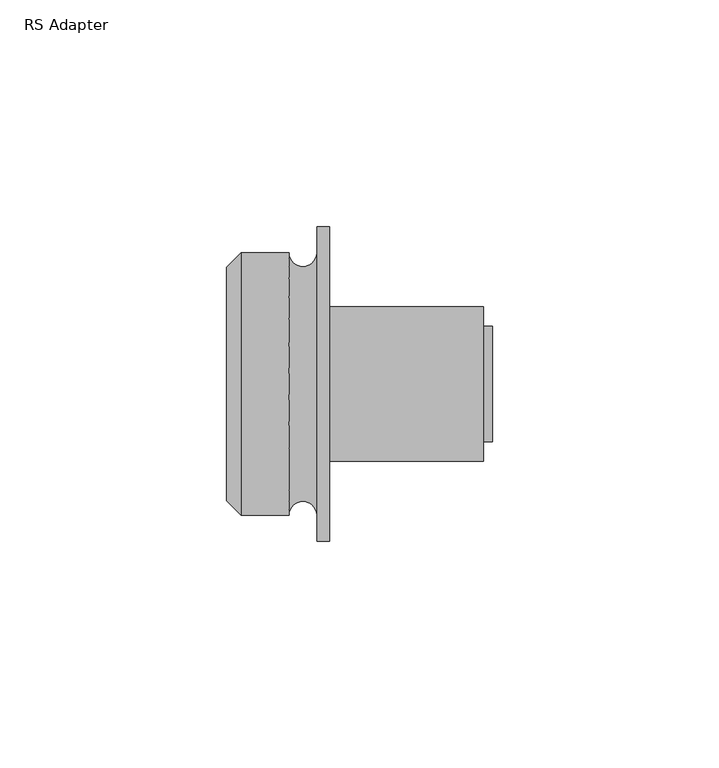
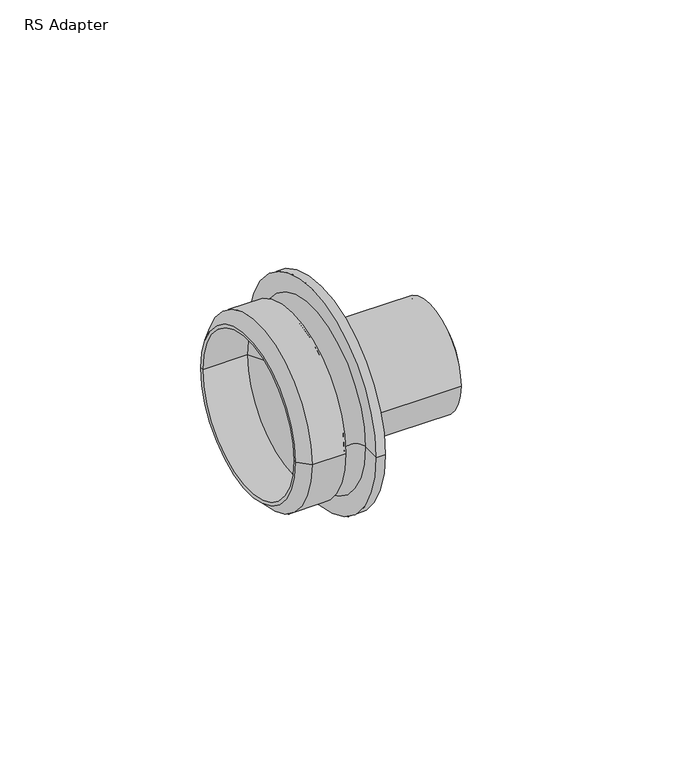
"""IFC4 building model written with IfcOpenShell, lengths in millimetres: pipe fitting geometry, RS Adapter : Superpipe RS Press Adapter."""

from ifc_helpers import new_model, si_unit, point, frame, origin, place, context, project, spatial, polyline, circle_curve, ellipse_curve, trimmed, source, transform, mapped, element, save
from ifc_brep_helpers import plane_surface, cylinder_surface, revolved_surface, advanced_brep


def rs_adapter_ed761ce0(model_context):
    return source(origin(), model_context, "Body", "AdvancedBrep", [
        advanced_brep(
        [(56.8, -17.0, 0.0), (56.8, 17.0, 0.0), (56.8, 16.0, 0.0), (56.8, -16.0, 0.0), (22.8, 16.0, 0.0), (22.8, -16.0, 0.0), (22.8, 17.0, 0.0), (22.8, -17.0, 0.0)],
        [
            (0, 1, circle_curve(frame((56.8, 0.0, 0.0), z_axis=(1.0, 0.0, 0.0), x_axis=(0.0, 1.0, 0.0)), 17.0)),
            (1, 2),
            (2, 3, circle_curve(frame((56.8, 0.0, 0.0), z_axis=(-1.0, 0.0, 0.0), x_axis=(0.0, 1.0, 0.0)), 16.0)),
            (3, 0),
            (2, 4),
            (4, 5, circle_curve(frame((22.8, 0.0, 0.0), z_axis=(-1.0, 0.0, 0.0), x_axis=(0.0, 1.0, 0.0)), 16.0)),
            (5, 3),
            (4, 6),
            (6, 7, circle_curve(frame((22.8, 0.0, 0.0), z_axis=(-1.0, 0.0, 0.0), x_axis=(0.0, 1.0, 0.0)), 17.0)),
            (7, 5),
            (6, 1),
            (0, 7),
            (6, 7, circle_curve(frame((22.8, 0.0, 0.0), z_axis=(1.0, 0.0, 0.0), x_axis=(0.0, 1.0, 0.0)), 17.0)),
            (0, 1, circle_curve(frame((56.8, 0.0, 0.0), z_axis=(-1.0, 0.0, 0.0), x_axis=(0.0, 1.0, 0.0)), 17.0)),
            (4, 5, circle_curve(frame((22.8, 0.0, 0.0), z_axis=(1.0, 0.0, 0.0), x_axis=(0.0, 1.0, 0.0)), 16.0)),
            (2, 3, circle_curve(frame((56.8, 0.0, 0.0), z_axis=(1.0, 0.0, 0.0), x_axis=(0.0, 1.0, 0.0)), 16.0)),
        ],
        [
            plane_surface(frame((56.8, 0.0, 0.0), z_axis=(1.0, 0.0, 0.0), x_axis=(0.0, 1.0, 0.0))),
            revolved_surface(polyline([(22.799999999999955, 16.0, 0.0), (56.799999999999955, 16.0, 0.0)]), (1994.0, 0.0, 0.0), (-1.0, 0.0, 0.0)),
            plane_surface(frame((22.8, 0.0, 0.0), z_axis=(-1.0, 0.0, 0.0), x_axis=(0.0, 1.0, 0.0))),
            cylinder_surface(frame((1994.0, 0.0, 0.0), z_axis=(-1.0, 0.0, 0.0), x_axis=(0.0, 1.0, 0.0)), 17.0),
        ],
        [
            (0, [[1, 2, 3, 4]]),
            (1, [[-3, 5, 6, 7]]),
            (2, [[-6, 8, 9, 10]]),
            (3, [[-9, 11, -1, 12]]),
            (3, [[13, -12, 14, -11]]),
            (2, [[15, -10, -13, -8]]),
            (1, [[16, -7, -15, -5]]),
            (0, [[-14, -4, -16, -2]]),
        ],
    ),
        advanced_brep(
        [(58.8, -12.75, 0.0), (58.8, 12.75, 0.0), (58.8, 9.75, 0.0), (58.8, -9.75, 0.0), (22.8, 9.75, 0.0), (22.8, -9.75, 0.0), (22.8, 12.75, 0.0), (22.8, -12.75, 0.0)],
        [
            (0, 1, circle_curve(frame((58.8, 0.0, 0.0), z_axis=(1.0, 0.0, 0.0), x_axis=(0.0, 1.0, 0.0)), 12.75)),
            (1, 2),
            (2, 3, circle_curve(frame((58.8, 0.0, 0.0), z_axis=(-1.0, 0.0, 0.0), x_axis=(0.0, 1.0, 0.0)), 9.75)),
            (3, 0),
            (2, 4),
            (4, 5, circle_curve(frame((22.8, 0.0, 0.0), z_axis=(-1.0, 0.0, 0.0), x_axis=(0.0, 1.0, 0.0)), 9.75)),
            (5, 3),
            (4, 6),
            (6, 7, circle_curve(frame((22.8, 0.0, 0.0), z_axis=(-1.0, 0.0, 0.0), x_axis=(0.0, 1.0, 0.0)), 12.75)),
            (7, 5),
            (6, 1),
            (0, 7),
            (6, 7, circle_curve(frame((22.8, 0.0, 0.0), z_axis=(1.0, 0.0, 0.0), x_axis=(0.0, 1.0, 0.0)), 12.75)),
            (0, 1, circle_curve(frame((58.8, 0.0, 0.0), z_axis=(-1.0, 0.0, 0.0), x_axis=(0.0, 1.0, 0.0)), 12.75)),
            (4, 5, circle_curve(frame((22.8, 0.0, 0.0), z_axis=(1.0, 0.0, 0.0), x_axis=(0.0, 1.0, 0.0)), 9.75)),
            (2, 3, circle_curve(frame((58.8, 0.0, 0.0), z_axis=(1.0, 0.0, 0.0), x_axis=(0.0, 1.0, 0.0)), 9.75)),
        ],
        [
            plane_surface(frame((58.8, 0.0, 0.0), z_axis=(1.0, 0.0, 0.0), x_axis=(0.0, 1.0, 0.0))),
            revolved_surface(polyline([(22.799999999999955, 9.75, 0.0), (58.799999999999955, 9.75, 0.0)]), (1994.0, 0.0, 0.0), (-1.0, 0.0, 0.0)),
            plane_surface(frame((22.8, 0.0, 0.0), z_axis=(-1.0, 0.0, 0.0), x_axis=(0.0, 1.0, 0.0))),
            cylinder_surface(frame((1994.0, 0.0, 0.0), z_axis=(-1.0, 0.0, 0.0), x_axis=(0.0, 1.0, 0.0)), 12.75),
        ],
        [
            (0, [[1, 2, 3, 4]]),
            (1, [[-3, 5, 6, 7]]),
            (2, [[-6, 8, 9, 10]]),
            (3, [[-9, 11, -1, 12]]),
            (3, [[13, -12, 14, -11]]),
            (2, [[15, -10, -13, -8]]),
            (1, [[16, -7, -15, -5]]),
            (0, [[-14, -4, -16, -2]]),
        ],
    ),
        advanced_brep(
        [(20.0, -34.75, 0.0), (20.0, 34.75, 0.0), (22.8, 34.75, 0.0), (22.8, -34.75, 0.0), (20.0, -29.0, 0.0), (20.0, 29.0, 0.0), (22.8, 9.75, 0.0), (22.8, -9.75, 0.0), (0.0, -25.8, 0.0), (0.0, 25.8, 0.0), (3.2, 29.0, 0.0), (3.2, -29.0, 0.0), (0.0, -24.8, 0.0), (0.0, 24.8, 0.0), (13.8, -29.0, 0.0), (13.8, 29.0, 0.0), (14.0, -24.8, 0.0), (14.0, 24.8, 0.0)],
        [
            (0, 1, circle_curve(frame((20.0, 0.0, 0.0), z_axis=(1.0, 0.0, 0.0), x_axis=(0.0, 1.0, 0.0)), 34.75)),
            (1, 2),
            (2, 3, circle_curve(frame((22.8, 0.0, 0.0), z_axis=(-1.0, 0.0, 0.0), x_axis=(0.0, 1.0, 0.0)), 34.75)),
            (3, 0),
            (1, 0, circle_curve(frame((20.0, 0.0, 0.0), z_axis=(1.0, 0.0, 0.0), x_axis=(0.0, 1.0, 0.0)), 34.75)),
            (3, 2, circle_curve(frame((22.8, 0.0, 0.0), z_axis=(-1.0, 0.0, 0.0), x_axis=(0.0, 1.0, 0.0)), 34.75)),
            (0, 4),
            (4, 5, circle_curve(frame((20.0, 0.0, 0.0), z_axis=(1.0, 0.0, 0.0), x_axis=(0.0, 1.0, 0.0)), 29.0)),
            (5, 1),
            (5, 4, circle_curve(frame((20.0, 0.0, 0.0), z_axis=(1.0, 0.0, 0.0), x_axis=(0.0, 1.0, 0.0)), 29.0)),
            (2, 6),
            (6, 7, circle_curve(frame((22.8, 0.0, 0.0), z_axis=(-1.0, 0.0, 0.0), x_axis=(0.0, 1.0, 0.0)), 9.75)),
            (7, 3),
            (7, 6, circle_curve(frame((22.8, 0.0, 0.0), z_axis=(-1.0, 0.0, 0.0), x_axis=(0.0, 1.0, 0.0)), 9.75)),
            (8, 9, circle_curve(frame((0.0, 0.0, 0.0), z_axis=(1.0, 0.0, 0.0), x_axis=(0.0, 1.0, 0.0)), 25.8)),
            (9, 10),
            (10, 11, circle_curve(frame((3.2, 0.0, 0.0), z_axis=(-1.0, 0.0, 0.0), x_axis=(0.0, 1.0, 0.0)), 29.0)),
            (11, 8),
            (9, 8, circle_curve(frame((0.0, 0.0, 0.0), z_axis=(1.0, 0.0, 0.0), x_axis=(0.0, 1.0, 0.0)), 25.8)),
            (11, 10, circle_curve(frame((3.2, 0.0, 0.0), z_axis=(-1.0, 0.0, 0.0), x_axis=(0.0, 1.0, 0.0)), 29.0)),
            (8, 12),
            (12, 13, circle_curve(frame((0.0, 0.0, 0.0), z_axis=(1.0, 0.0, 0.0), x_axis=(0.0, 1.0, 0.0)), 24.8)),
            (13, 9),
            (13, 12, circle_curve(frame((0.0, 0.0, 0.0), z_axis=(1.0, 0.0, 0.0), x_axis=(0.0, 1.0, 0.0)), 24.8)),
            (4, 14, circle_curve(frame((16.9, -29.0, 0.0), z_axis=(0.0, 0.0, 1.0), x_axis=(1.0, 0.0, 0.0)), 3.1)),
            (14, 15, circle_curve(frame((13.8, 0.0, 0.0), z_axis=(1.0, 0.0, 0.0), x_axis=(0.0, 1.0, 0.0)), 29.0)),
            (15, 5, circle_curve(frame((16.9, 29.0, 0.0), z_axis=(0.0, 0.0, 1.0), x_axis=(1.0, 0.0, 0.0)), 3.1)),
            (15, 14, circle_curve(frame((13.8, 0.0, 0.0), z_axis=(1.0, 0.0, 0.0), x_axis=(0.0, 1.0, 0.0)), 29.0)),
            (10, 15),
            (14, 11),
            (12, 16),
            (16, 17, circle_curve(frame((14.0, 0.0, 0.0), z_axis=(1.0, 0.0, 0.0), x_axis=(0.0, 1.0, 0.0)), 24.8)),
            (17, 13),
            (17, 16, circle_curve(frame((14.0, 0.0, 0.0), z_axis=(1.0, 0.0, 0.0), x_axis=(0.0, 1.0, 0.0)), 24.8)),
            (16, 7),
            (6, 17),
        ],
        [
            cylinder_surface(frame((1978.8, 0.0, 0.0), z_axis=(-1.0, 0.0, 0.0), x_axis=(0.0, 1.0, 0.0)), 34.75),
            plane_surface(frame((20.0, 0.0, 0.0), z_axis=(-1.0, 0.0, 0.0), x_axis=(0.0, 1.0, 0.0))),
            plane_surface(frame((22.8, 0.0, 0.0), z_axis=(1.0, 0.0, 0.0), x_axis=(0.0, 1.0, 0.0))),
            revolved_surface(polyline([(3.2, 29.0, 0.0), (0.0, 25.8, 0.0)]), (1978.8, 0.0, 0.0), (-1.0, 0.0, 0.0)),
            plane_surface(frame((0.0, 0.0, 0.0), z_axis=(-1.0, 0.0, 0.0), x_axis=(0.0, 1.0, 0.0))),
            revolved_surface(trimmed(ellipse_curve(frame((16.9, 29.0, 0.0), z_axis=(0.0, 0.0, -1.0), x_axis=(1.0, 0.0, 0.0)), 3.1, 3.1), [point((20.0, 29.0, 0.0))], [point((13.8, 29.0, 0.0))], True, "CARTESIAN"), (1978.8, 0.0, 0.0), (-1.0, 0.0, 0.0)),
            cylinder_surface(frame((1978.8, 0.0, 0.0), z_axis=(-1.0, 0.0, 0.0), x_axis=(0.0, 1.0, 0.0)), 29.0),
            revolved_surface(polyline([(0.0, 24.8, 0.0), (14.0, 24.8, 0.0)]), (2005.0, 0.0, 0.0), (-1.0, 0.0, 0.0)),
            revolved_surface(polyline([(14.0, 24.8, 0.0), (22.8, 9.75, 0.0)]), (2005.0, 0.0, 0.0), (-1.0, 0.0, 0.0)),
        ],
        [
            (0, [[1, 2, 3, 4]]),
            (0, [[-2, 5, -4, 6]]),
            (1, [[-1, 7, 8, 9]]),
            (1, [[-5, -9, 10, -7]]),
            (2, [[-3, 11, 12, 13]]),
            (2, [[-6, -13, 14, -11]]),
            (3, [[15, 16, 17, 18]]),
            (3, [[-16, 19, -18, 20]]),
            (4, [[-15, 21, 22, 23]]),
            (4, [[-19, -23, 24, -21]]),
            (5, [[-8, 25, 26, 27]]),
            (5, [[-10, -27, 28, -25]]),
            (6, [[-17, 29, -26, 30]]),
            (6, [[-20, -30, -28, -29]]),
            (7, [[31, 32, 33, -22]]),
            (7, [[-31, -24, -33, 34]]),
            (8, [[-32, 35, -12, 36]]),
            (8, [[-34, -36, -14, -35]]),
        ],
    ),
    ])


if __name__ == "__main__":
    model = new_model("IFC4")
    model_context = context("Model", 3, world=origin())
    ifc_project = project(units=[si_unit("LENGTHUNIT", "METRE", prefix="MILLI")], contexts=[model_context])
    site = spatial("IfcSite", under=ifc_project)
    building = spatial("IfcBuilding", under=site)
    placement = place(None, origin())
    rs_adapter_shape = rs_adapter_ed761ce0(model_context)
    element("IfcPipeFitting", 1, ObjectType="RS Adapter : Superpipe RS Press Adapter", at=placement, inside=building, context=model_context, shape_type="MappedRepresentation", body=[
        mapped(rs_adapter_shape, transform((0.0, 0.0, 0.0), x_axis=(1.0, 0.0, 0.0), y_axis=(0.0, 1.0, 0.0), z_axis=(0.0, 0.0, 1.0))),
    ])
    save(model, "model.ifc")
